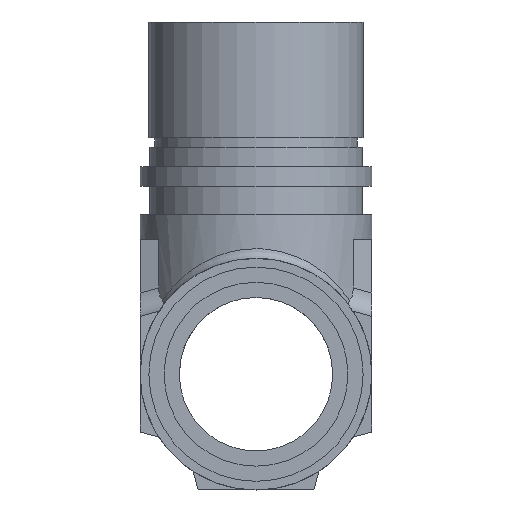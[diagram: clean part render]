
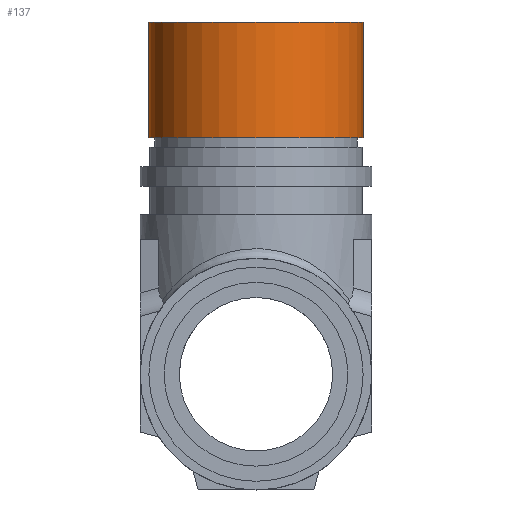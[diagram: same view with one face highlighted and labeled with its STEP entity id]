
A CAD part, left-side view. The second image highlights one B-rep face of the part: STEP entity #137.
In plain terms, the highlighted cylindrical face has radius 11.1 mm (diameter 22.2 mm), a full revolution.
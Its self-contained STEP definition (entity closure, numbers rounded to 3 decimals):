
#137 = ADVANCED_FACE( '', ( #317, #318 ), #319, .T. );
#317 = FACE_OUTER_BOUND( '', #931, .T. );
#318 = FACE_OUTER_BOUND( '', #932, .T. );
#319 = CYLINDRICAL_SURFACE( '', #933, 11.1 );
#931 = EDGE_LOOP( '', ( #1393 ) );
#932 = EDGE_LOOP( '', ( #1394 ) );
#933 = AXIS2_PLACEMENT_3D( '', #1395, #1396, #1397 );
#1393 = ORIENTED_EDGE( '', *, *, #1630, .F. );
#1394 = ORIENTED_EDGE( '', *, *, #1629, .T. );
#1395 = CARTESIAN_POINT( '', ( 0., 0., 54. ) );
#1396 = DIRECTION( '', ( 0., 0., 1. ) );
#1397 = DIRECTION( '', ( -1., 0., 0. ) );
#1629 = EDGE_CURVE( '', #1871, #1871, #1872, .T. );
#1630 = EDGE_CURVE( '', #1873, #1873, #1874, .T. );
#1871 = VERTEX_POINT( '', #2319 );
#1872 = CIRCLE( '', #2320, 11.1 );
#1873 = VERTEX_POINT( '', #2321 );
#1874 = CIRCLE( '', #2322, 11.1 );
#2319 = CARTESIAN_POINT( '', ( -11.1, 0., 36.5 ) );
#2320 = AXIS2_PLACEMENT_3D( '', #2583, #2584, #2585 );
#2321 = CARTESIAN_POINT( '', ( -11.1, 0., 24.5 ) );
#2322 = AXIS2_PLACEMENT_3D( '', #2586, #2587, #2588 );
#2583 = CARTESIAN_POINT( '', ( 0., 0., 36.5 ) );
#2584 = DIRECTION( '', ( 0., 0., -1. ) );
#2585 = DIRECTION( '', ( -1., 0., 0. ) );
#2586 = CARTESIAN_POINT( '', ( 0., 0., 24.5 ) );
#2587 = DIRECTION( '', ( 0., 0., -1. ) );
#2588 = DIRECTION( '', ( -1., 0., 0. ) );
